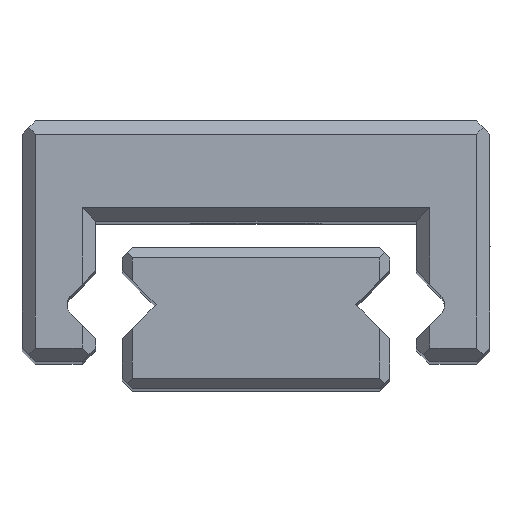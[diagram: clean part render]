
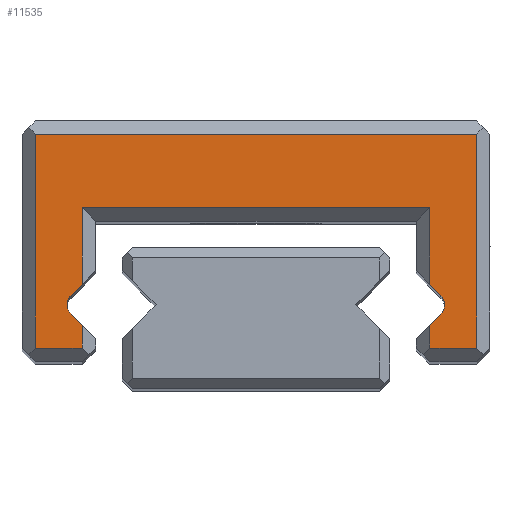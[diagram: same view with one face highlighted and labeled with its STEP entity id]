
A CAD part, top view. The second image highlights one B-rep face of the part: STEP entity #11535.
In plain terms, the highlighted planar face has unit normal (0, 0, 1).
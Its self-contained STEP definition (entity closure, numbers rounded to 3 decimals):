
#2 = EDGE_CURVE ( 'NONE', #7675, #7686, #7359, .T. ) ;
#348 = CARTESIAN_POINT ( 'NONE',  ( -2.624, 0.85, 12.5 ) ) ;
#349 = DIRECTION ( 'NONE',  ( 0., 0., -1. ) ) ;
#350 = DIRECTION ( 'NONE',  ( 1., 0., 0. ) ) ;
#736 = PLANE ( 'NONE',  #7503 ) ;
#738 = CARTESIAN_POINT ( 'NONE',  ( -2.624, 0.85, 12.5 ) ) ;
#742 = FACE_OUTER_BOUND ( 'NONE', #7898, .T. ) ;
#744 = DIRECTION ( 'NONE',  ( 0., 0., 1. ) ) ;
#745 = DIRECTION ( 'NONE',  ( 1., 0., 0. ) ) ;
#900 = LINE ( 'NONE', #909, #1572 ) ;
#909 = CARTESIAN_POINT ( 'NONE',  ( 2.6, 1.357, 12.5 ) ) ;
#910 = DIRECTION ( 'NONE',  ( 0., -1., 0. ) ) ;
#911 = LINE ( 'NONE', #912, #1571 ) ;
#912 = CARTESIAN_POINT ( 'NONE',  ( 2.4, 2.3, 12.5 ) ) ;
#913 = DIRECTION ( 'NONE',  ( 1., 0., 0. ) ) ;
#914 = LINE ( 'NONE', #915, #1573 ) ;
#915 = CARTESIAN_POINT ( 'NONE',  ( -2.6, 2.1, 12.5 ) ) ;
#916 = DIRECTION ( 'NONE',  ( 0., 1., 0. ) ) ;
#917 = LINE ( 'NONE', #918, #1574 ) ;
#918 = CARTESIAN_POINT ( 'NONE',  ( -2.6, 0.343, 12.5 ) ) ;
#919 = DIRECTION ( 'NONE',  ( 0., 1., 0. ) ) ;
#920 = LINE ( 'NONE', #921, #1575 ) ;
#921 = CARTESIAN_POINT ( 'NONE',  ( -2.6, 0.2, 12.5 ) ) ;
#922 = DIRECTION ( 'NONE',  ( 1., 0., 0. ) ) ;
#923 = LINE ( 'NONE', #924, #1576 ) ;
#924 = CARTESIAN_POINT ( 'NONE',  ( -3.3, 0.2, 12.5 ) ) ;
#925 = DIRECTION ( 'NONE',  ( 0., -1., 0. ) ) ;
#926 = LINE ( 'NONE', #927, #1577 ) ;
#927 = CARTESIAN_POINT ( 'NONE',  ( -3.3, 3.4, 12.5 ) ) ;
#928 = DIRECTION ( 'NONE',  ( -1., 0., 0. ) ) ;
#929 = LINE ( 'NONE', #930, #1578 ) ;
#930 = CARTESIAN_POINT ( 'NONE',  ( 3.3, 3.4, 12.5 ) ) ;
#931 = DIRECTION ( 'NONE',  ( 0., 1., 0. ) ) ;
#932 = LINE ( 'NONE', #933, #1579 ) ;
#933 = CARTESIAN_POINT ( 'NONE',  ( 3.3, 0.2, 12.5 ) ) ;
#934 = DIRECTION ( 'NONE',  ( 1., 0., 0. ) ) ;
#935 = LINE ( 'NONE', #936, #1580 ) ;
#936 = CARTESIAN_POINT ( 'NONE',  ( 2.6, 0.2, 12.5 ) ) ;
#937 = DIRECTION ( 'NONE',  ( 0., -1., 0. ) ) ;
#1025 = LINE ( 'NONE', #1026, #1612 ) ;
#1026 = CARTESIAN_POINT ( 'NONE',  ( 2.4, 0.343, 12.5 ) ) ;
#1027 = DIRECTION ( 'NONE',  ( -0.707, -0.707, 0. ) ) ;
#1042 = CARTESIAN_POINT ( 'NONE',  ( 2.624, 0.85, 12.5 ) ) ;
#1043 = DIRECTION ( 'NONE',  ( 0., 0., -1. ) ) ;
#1044 = DIRECTION ( 'NONE',  ( -1., 0., 0. ) ) ;
#1571 = VECTOR ( 'NONE', #913, 1000. ) ;
#1572 = VECTOR ( 'NONE', #910, 1000. ) ;
#1573 = VECTOR ( 'NONE', #916, 1000. ) ;
#1574 = VECTOR ( 'NONE', #919, 1000. ) ;
#1575 = VECTOR ( 'NONE', #922, 1000. ) ;
#1576 = VECTOR ( 'NONE', #925, 1000. ) ;
#1577 = VECTOR ( 'NONE', #928, 1000. ) ;
#1578 = VECTOR ( 'NONE', #931, 1000. ) ;
#1579 = VECTOR ( 'NONE', #934, 1000. ) ;
#1580 = VECTOR ( 'NONE', #937, 1000. ) ;
#1612 = VECTOR ( 'NONE', #1027, 1000. ) ;
#1617 = CIRCLE ( 'NONE', #1619, 0.2 ) ;
#1619 = AXIS2_PLACEMENT_3D ( 'NONE', #1042, #1043, #1044 ) ;
#2680 = ORIENTED_EDGE ( 'NONE', *, *, #11605, .T. ) ;
#2681 = ORIENTED_EDGE ( 'NONE', *, *, #11575, .T. ) ;
#2682 = ORIENTED_EDGE ( 'NONE', *, *, #11574, .T. ) ;
#2683 = ORIENTED_EDGE ( 'NONE', *, *, #11573, .T. ) ;
#2684 = ORIENTED_EDGE ( 'NONE', *, *, #11572, .T. ) ;
#2685 = ORIENTED_EDGE ( 'NONE', *, *, #11571, .T. ) ;
#2686 = ORIENTED_EDGE ( 'NONE', *, *, #11570, .T. ) ;
#2687 = ORIENTED_EDGE ( 'NONE', *, *, #11569, .T. ) ;
#2688 = ORIENTED_EDGE ( 'NONE', *, *, #8480, .T. ) ;
#2689 = ORIENTED_EDGE ( 'NONE', *, *, #8478, .T. ) ;
#2690 = ORIENTED_EDGE ( 'NONE', *, *, #11464, .T. ) ;
#2691 = ORIENTED_EDGE ( 'NONE', *, *, #8472, .T. ) ;
#2692 = ORIENTED_EDGE ( 'NONE', *, *, #11568, .T. ) ;
#2693 = ORIENTED_EDGE ( 'NONE', *, *, #11567, .T. ) ;
#2694 = ORIENTED_EDGE ( 'NONE', *, *, #11566, .T. ) ;
#2695 = ORIENTED_EDGE ( 'NONE', *, *, #2, .T. ) ;
#2696 = ORIENTED_EDGE ( 'NONE', *, *, #11610, .T. ) ;
#2851 = CARTESIAN_POINT ( 'NONE',  ( 2.6, 0.2, 12.5 ) ) ;
#2855 = CARTESIAN_POINT ( 'NONE',  ( -2.6, 2.3, 12.5 ) ) ;
#2863 = CARTESIAN_POINT ( 'NONE',  ( -3.3, 0.2, 12.5 ) ) ;
#2929 = CARTESIAN_POINT ( 'NONE',  ( 2.6, 1.157, 12.5 ) ) ;
#2932 = CARTESIAN_POINT ( 'NONE',  ( -2.6, 0.543, 12.5 ) ) ;
#2934 = CARTESIAN_POINT ( 'NONE',  ( -2.6, 1.157, 12.5 ) ) ;
#2937 = CARTESIAN_POINT ( 'NONE',  ( 2.766, 0.991, 12.5 ) ) ;
#2955 = CARTESIAN_POINT ( 'NONE',  ( -2.766, 0.709, 12.5 ) ) ;
#2970 = CARTESIAN_POINT ( 'NONE',  ( 2.766, 0.709, 12.5 ) ) ;
#4715 = VECTOR ( 'NONE', #9913, 1000. ) ;
#4743 = AXIS2_PLACEMENT_3D ( 'NONE', #9932, #9933, #9934 ) ;
#4759 = VECTOR ( 'NONE', #9938, 1000. ) ;
#4777 = CIRCLE ( 'NONE', #4743, 0.2 ) ;
#5258 = CARTESIAN_POINT ( 'NONE',  ( -2.766, 0.991, 12.5 ) ) ;
#5275 = CARTESIAN_POINT ( 'NONE',  ( -2.824, 0.85, 12.5 ) ) ;
#5470 = CARTESIAN_POINT ( 'NONE',  ( -3.3, 3.4, 12.5 ) ) ;
#5474 = CARTESIAN_POINT ( 'NONE',  ( 2.6, 2.3, 12.5 ) ) ;
#5475 = CARTESIAN_POINT ( 'NONE',  ( 3.3, 3.4, 12.5 ) ) ;
#5482 = CARTESIAN_POINT ( 'NONE',  ( -2.6, 0.2, 12.5 ) ) ;
#5488 = CARTESIAN_POINT ( 'NONE',  ( 3.3, 0.2, 12.5 ) ) ;
#5490 = CARTESIAN_POINT ( 'NONE',  ( 2.6, 0.543, 12.5 ) ) ;
#6171 = AXIS2_PLACEMENT_3D ( 'NONE', #348, #349, #350 ) ;
#6174 = CIRCLE ( 'NONE', #6171, 0.2 ) ;
#6965 = VERTEX_POINT ( 'NONE', #5258 ) ;
#6982 = VERTEX_POINT ( 'NONE', #5275 ) ;
#7298 = VERTEX_POINT ( 'NONE', #5470 ) ;
#7302 = VERTEX_POINT ( 'NONE', #5474 ) ;
#7311 = VERTEX_POINT ( 'NONE', #5482 ) ;
#7313 = VERTEX_POINT ( 'NONE', #5475 ) ;
#7320 = VERTEX_POINT ( 'NONE', #5488 ) ;
#7331 = VERTEX_POINT ( 'NONE', #5490 ) ;
#7340 = VERTEX_POINT ( 'NONE', #2851 ) ;
#7347 = VERTEX_POINT ( 'NONE', #2855 ) ;
#7351 = VERTEX_POINT ( 'NONE', #2863 ) ;
#7359 = LINE ( 'NONE', #7362, #8519 ) ;
#7361 = DIRECTION ( 'NONE',  ( 0.707, -0.707, 0. ) ) ;
#7362 = CARTESIAN_POINT ( 'NONE',  ( 2.766, 0.991, 12.5 ) ) ;
#7503 = AXIS2_PLACEMENT_3D ( 'NONE', #738, #744, #745 ) ;
#7675 = VERTEX_POINT ( 'NONE', #2929 ) ;
#7679 = VERTEX_POINT ( 'NONE', #2932 ) ;
#7681 = VERTEX_POINT ( 'NONE', #2934 ) ;
#7686 = VERTEX_POINT ( 'NONE', #2937 ) ;
#7711 = VERTEX_POINT ( 'NONE', #2955 ) ;
#7728 = VERTEX_POINT ( 'NONE', #2970 ) ;
#7898 = EDGE_LOOP ( 'NONE', ( #2680, #2681, #2682, #2683, #2684, #2685, #2686, #2687, #2688, #2689, #2690, #2691, #2692, #2693, #2694, #2695, #2696 ) ) ;
#8472 = EDGE_CURVE ( 'NONE', #6965, #7681, #9911, .T. ) ;
#8478 = EDGE_CURVE ( 'NONE', #7711, #6982, #4777, .T. ) ;
#8480 = EDGE_CURVE ( 'NONE', #7679, #7711, #9931, .T. ) ;
#8519 = VECTOR ( 'NONE', #7361, 1000. ) ;
#9911 = LINE ( 'NONE', #9912, #4715 ) ;
#9912 = CARTESIAN_POINT ( 'NONE',  ( -2.766, 0.991, 12.5 ) ) ;
#9913 = DIRECTION ( 'NONE',  ( 0.707, 0.707, 0. ) ) ;
#9931 = LINE ( 'NONE', #9937, #4759 ) ;
#9932 = CARTESIAN_POINT ( 'NONE',  ( -2.624, 0.85, 12.5 ) ) ;
#9933 = DIRECTION ( 'NONE',  ( 0., 0., -1. ) ) ;
#9934 = DIRECTION ( 'NONE',  ( 1., 0., 0. ) ) ;
#9937 = CARTESIAN_POINT ( 'NONE',  ( -2.4, 0.343, 12.5 ) ) ;
#9938 = DIRECTION ( 'NONE',  ( -0.707, 0.707, 0. ) ) ;
#11464 = EDGE_CURVE ( 'NONE', #6982, #6965, #6174, .T. ) ;
#11535 = ADVANCED_FACE ( 'NONE', ( #742 ), #736, .T. ) ;
#11566 = EDGE_CURVE ( 'NONE', #7302, #7675, #900, .T. ) ;
#11567 = EDGE_CURVE ( 'NONE', #7347, #7302, #911, .T. ) ;
#11568 = EDGE_CURVE ( 'NONE', #7681, #7347, #914, .T. ) ;
#11569 = EDGE_CURVE ( 'NONE', #7311, #7679, #917, .T. ) ;
#11570 = EDGE_CURVE ( 'NONE', #7351, #7311, #920, .T. ) ;
#11571 = EDGE_CURVE ( 'NONE', #7298, #7351, #923, .T. ) ;
#11572 = EDGE_CURVE ( 'NONE', #7313, #7298, #926, .T. ) ;
#11573 = EDGE_CURVE ( 'NONE', #7320, #7313, #929, .T. ) ;
#11574 = EDGE_CURVE ( 'NONE', #7340, #7320, #932, .T. ) ;
#11575 = EDGE_CURVE ( 'NONE', #7331, #7340, #935, .T. ) ;
#11605 = EDGE_CURVE ( 'NONE', #7728, #7331, #1025, .T. ) ;
#11610 = EDGE_CURVE ( 'NONE', #7686, #7728, #1617, .T. ) ;
